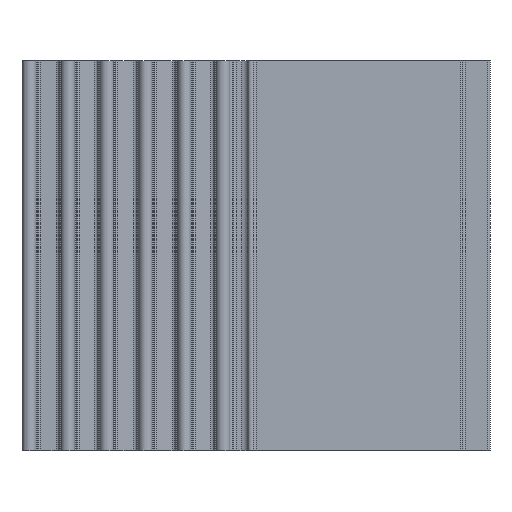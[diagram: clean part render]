
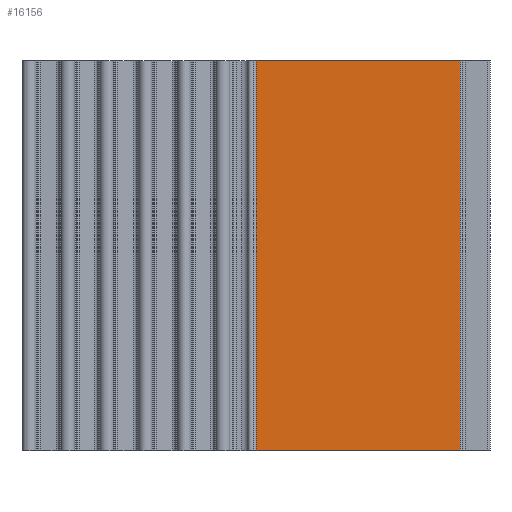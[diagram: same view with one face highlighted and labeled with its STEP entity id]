
A CAD part, left-side view. The second image highlights one B-rep face of the part: STEP entity #16156.
In plain terms, the highlighted planar face has unit normal (-1, 0, 0).
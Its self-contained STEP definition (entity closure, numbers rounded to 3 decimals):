
#2260=FACE_OUTER_BOUND('',#3130,.T.);
#3130=EDGE_LOOP('',(#12125,#12126,#12127,#12128));
#4157=LINE('',#26427,#5373);
#4272=LINE('',#27296,#5488);
#4275=LINE('',#27303,#5491);
#4276=LINE('',#27304,#5492);
#5373=VECTOR('',#20595,10.);
#5488=VECTOR('',#21450,10.);
#5491=VECTOR('',#21457,10.);
#5492=VECTOR('',#21458,10.);
#6932=VERTEX_POINT('',#26424);
#6933=VERTEX_POINT('',#26426);
#7317=VERTEX_POINT('',#27294);
#7319=VERTEX_POINT('',#27302);
#8779=EDGE_CURVE('',#6932,#6933,#4157,.T.);
#9214=EDGE_CURVE('',#6932,#7317,#4272,.T.);
#9217=EDGE_CURVE('',#7317,#7319,#4275,.T.);
#9218=EDGE_CURVE('',#6933,#7319,#4276,.T.);
#12125=ORIENTED_EDGE('',*,*,#9214,.T.);
#12126=ORIENTED_EDGE('',*,*,#9217,.T.);
#12127=ORIENTED_EDGE('',*,*,#9218,.F.);
#12128=ORIENTED_EDGE('',*,*,#8779,.F.);
#15900=PLANE('',#17820);
#16156=ADVANCED_FACE('',(#2260),#15900,.F.);
#17820=AXIS2_PLACEMENT_3D('',#27301,#21455,#21456);
#20595=DIRECTION('',(0.,1.,0.));
#21450=DIRECTION('',(0.,0.,1.));
#21455=DIRECTION('center_axis',(1.,0.,0.));
#21456=DIRECTION('ref_axis',(0.,1.,0.));
#21457=DIRECTION('',(0.,1.,0.));
#21458=DIRECTION('',(0.,0.,1.));
#26424=CARTESIAN_POINT('',(-6.,3.8,0.));
#26426=CARTESIAN_POINT('',(-6.,30.,0.));
#26427=CARTESIAN_POINT('',(-6.,0.,0.));
#27294=CARTESIAN_POINT('',(-6.,3.8,50.));
#27296=CARTESIAN_POINT('',(-6.,3.8,50.));
#27301=CARTESIAN_POINT('Origin',(-6.,0.,0.));
#27302=CARTESIAN_POINT('',(-6.,30.,50.));
#27303=CARTESIAN_POINT('',(-6.,0.,50.));
#27304=CARTESIAN_POINT('',(-6.,30.,0.));
